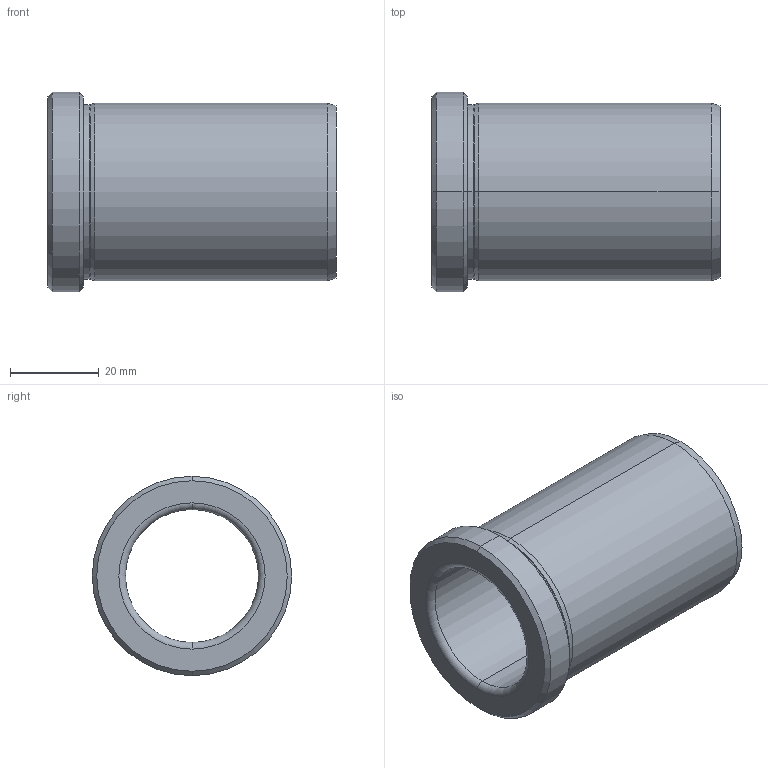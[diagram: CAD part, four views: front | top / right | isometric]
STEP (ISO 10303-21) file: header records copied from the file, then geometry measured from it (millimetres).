
FILE_DESCRIPTION (( 'STEP AP214' ), '1' );
FILE_NAME ('BRCVBG-30x65.STEP', '2020-07-21T12:34:55', ( '' ), ( '' ), 'SwSTEP 2.0', 'SolidWorks 2018', '' );
FILE_SCHEMA (( 'AUTOMOTIVE_DESIGN' ));
Length unit declared in the file: millimetre
Products named in the file (1): BRCVBG-30x65
Bounding box: 65 x 45 x 45 mm (x, y, z)
Volume: 38080.8 mm3; surface area: 15936.6 mm2
Topology: 1 solids, 1 shells, 23 faces, 46 edges, 26 vertices
Faces by surface type: cone 8, cylinder 8, torus 4, plane 3
Entity records: 636 total; most frequent: DIRECTION 124, CARTESIAN_POINT 96, ORIENTED_EDGE 92, AXIS2_PLACEMENT_3D 54, EDGE_CURVE 46, CIRCLE 30, EDGE_LOOP 26, VERTEX_POINT 26
